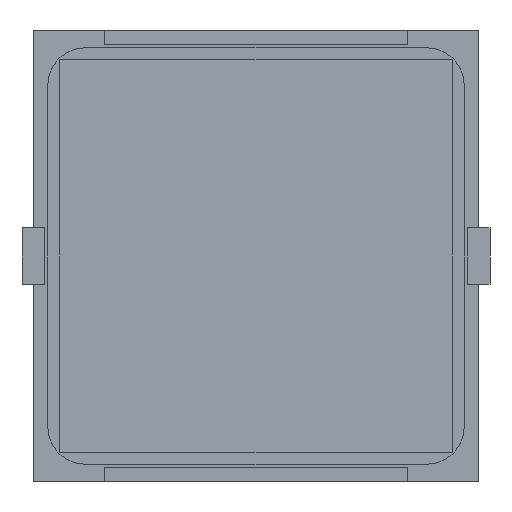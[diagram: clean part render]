
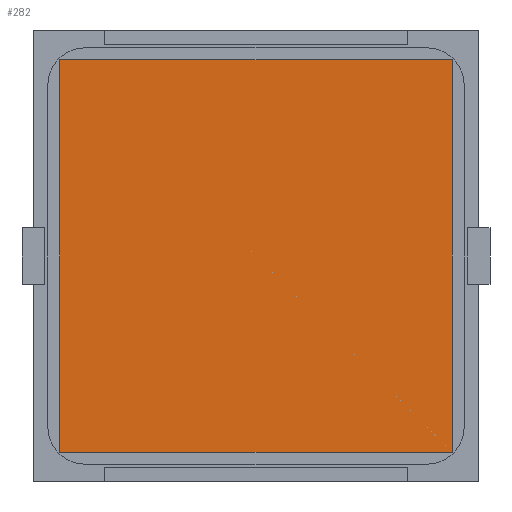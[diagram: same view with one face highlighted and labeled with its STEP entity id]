
A CAD part, front view. The second image highlights one B-rep face of the part: STEP entity #282.
In plain terms, the highlighted planar face has unit normal (0, -1, 0).
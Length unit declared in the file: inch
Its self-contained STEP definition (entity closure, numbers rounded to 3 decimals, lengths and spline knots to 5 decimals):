
#251 = CARTESIAN_POINT ( 'NONE',  ( -0.68898, -0.005, 0.68898 ) ) ;
#282 = ADVANCED_FACE ( 'NONE', ( #806 ), #3909, .F. ) ;
#382 = ORIENTED_EDGE ( 'NONE', *, *, #447, .F. ) ;
#447 = EDGE_CURVE ( 'NONE', #3276, #3854, #3407, .T. ) ;
#473 = AXIS2_PLACEMENT_3D ( 'NONE', #7676, #2415, #6858 ) ;
#774 = EDGE_CURVE ( 'NONE', #3854, #9298, #6800, .T. ) ;
#806 = FACE_OUTER_BOUND ( 'NONE', #9397, .T. ) ;
#814 = DIRECTION ( 'NONE',  ( -1., 0., 0. ) ) ;
#1268 = DIRECTION ( 'NONE',  ( 0., 0., 1. ) ) ;
#2415 = DIRECTION ( 'NONE',  ( 0., 1., 0. ) ) ;
#2680 = CARTESIAN_POINT ( 'NONE',  ( -0.68898, -0.005, -0.68898 ) ) ;
#3276 = VERTEX_POINT ( 'NONE', #5271 ) ;
#3407 = LINE ( 'NONE', #2680, #5233 ) ;
#3425 = CARTESIAN_POINT ( 'NONE',  ( 0.68898, -0.005, -0.68898 ) ) ;
#3636 = ORIENTED_EDGE ( 'NONE', *, *, #774, .F. ) ;
#3804 = CARTESIAN_POINT ( 'NONE',  ( -0.68898, -0.005, 0.68898 ) ) ;
#3854 = VERTEX_POINT ( 'NONE', #3804 ) ;
#3909 = PLANE ( 'NONE',  #473 ) ;
#4132 = ORIENTED_EDGE ( 'NONE', *, *, #5699, .F. ) ;
#4491 = VECTOR ( 'NONE', #6622, 39.37008 ) ;
#5206 = DIRECTION ( 'NONE',  ( 1., 0., 0. ) ) ;
#5233 = VECTOR ( 'NONE', #1268, 39.37008 ) ;
#5271 = CARTESIAN_POINT ( 'NONE',  ( -0.68898, -0.005, -0.68898 ) ) ;
#5539 = CARTESIAN_POINT ( 'NONE',  ( 0.68898, -0.005, 0.68898 ) ) ;
#5637 = VECTOR ( 'NONE', #814, 39.37008 ) ;
#5699 = EDGE_CURVE ( 'NONE', #9298, #6602, #8830, .T. ) ;
#5981 = CARTESIAN_POINT ( 'NONE',  ( -0.68898, -0.005, -0.68898 ) ) ;
#6602 = VERTEX_POINT ( 'NONE', #3425 ) ;
#6622 = DIRECTION ( 'NONE',  ( 0., 0., -1. ) ) ;
#6800 = LINE ( 'NONE', #251, #7282 ) ;
#6803 = CARTESIAN_POINT ( 'NONE',  ( 0.68898, -0.005, -0.68898 ) ) ;
#6858 = DIRECTION ( 'NONE',  ( 0., 0., 1. ) ) ;
#7282 = VECTOR ( 'NONE', #5206, 39.37008 ) ;
#7390 = EDGE_CURVE ( 'NONE', #6602, #3276, #8123, .T. ) ;
#7676 = CARTESIAN_POINT ( 'NONE',  ( -0.68898, -0.005, 0.68898 ) ) ;
#7844 = ORIENTED_EDGE ( 'NONE', *, *, #7390, .F. ) ;
#8123 = LINE ( 'NONE', #5981, #5637 ) ;
#8830 = LINE ( 'NONE', #6803, #4491 ) ;
#9298 = VERTEX_POINT ( 'NONE', #5539 ) ;
#9397 = EDGE_LOOP ( 'NONE', ( #382, #7844, #4132, #3636 ) ) ;
